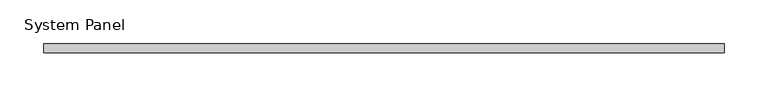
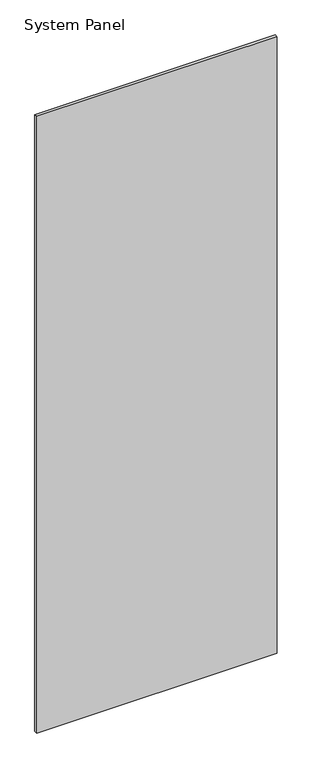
"""IFC4 building model written with IfcOpenShell, lengths in millimetres: plate geometry, System Panel : стекло_смещение_0."""

from ifc_helpers import new_model, si_unit, origin, origin_with_axes, place, context, project, spatial, polyline, outline, extrude, source, transform, mapped, element, save


def system_panel_16570724(model_context):
    return source(origin(), model_context, "Body", "SweptSolid", [
        extrude(outline(polyline([(387.5, -5.0), (-387.5, -5.0), (-387.5, 5.0), (387.5, 5.0), (387.5, -5.0)])), origin_with_axes(), (0.0, 0.0, 1.0), 2100.0),
    ])


if __name__ == "__main__":
    model = new_model("IFC4")
    model_context = context("Model", 3, world=origin())
    ifc_project = project(units=[si_unit("LENGTHUNIT", "METRE", prefix="MILLI")], contexts=[model_context])
    site = spatial("IfcSite", under=ifc_project)
    building = spatial("IfcBuilding", under=site)
    placement = place(None, origin())
    system_panel_shape = system_panel_16570724(model_context)
    element("IfcPlate", 1, ObjectType="System Panel : стекло_смещение_0", at=placement, inside=building, context=model_context, shape_type="MappedRepresentation", body=[
        mapped(system_panel_shape, transform((0.0, 0.0, 0.0), x_axis=(1.0, 0.0, 0.0), y_axis=(0.0, 1.0, 0.0), z_axis=(0.0, 0.0, 1.0))),
    ])
    save(model, "model.ifc")
